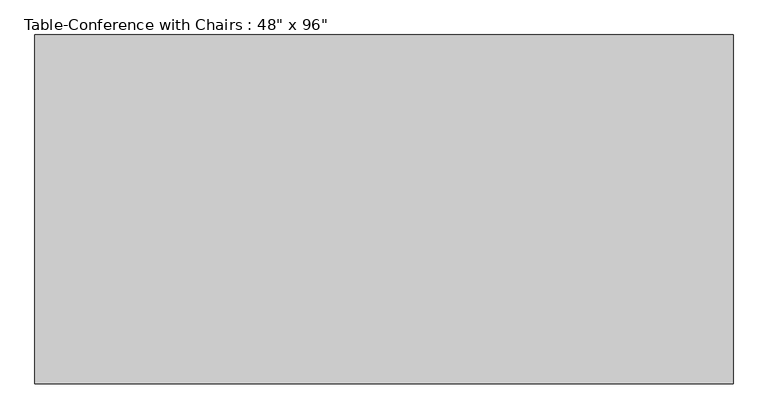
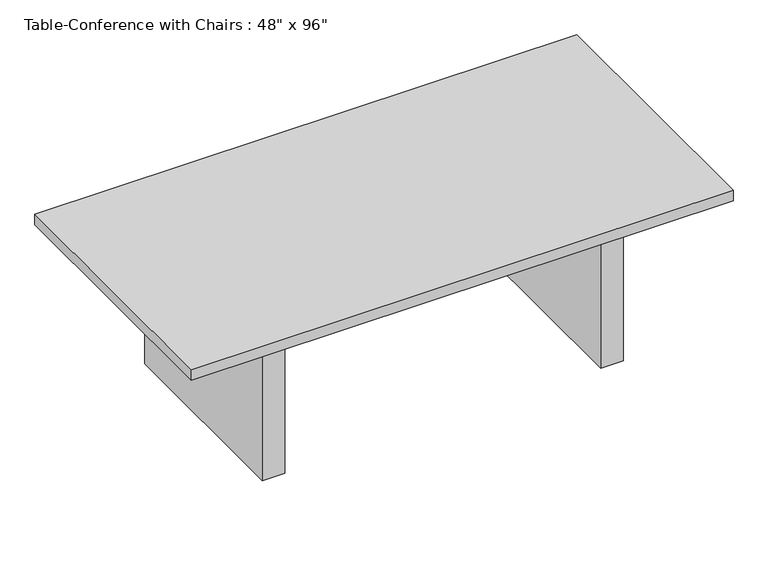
"""IFC4 building model written with IfcOpenShell, lengths in millimetres: furniture geometry."""

from ifc_helpers import new_model, si_unit, frame, origin, origin_with_axes, place, context, project, spatial, polyline, outline, extrude, source, transform, mapped, element, save


def furniture_bf544a6a(model_context):
    return source(origin(), model_context, "Body", "SweptSolid", [
        extrude(outline(polyline([(711.2, 457.2), (711.2, 419.1), (-711.2, 419.1), (-711.2, 457.2), (711.2, 457.2)])), frame((0.0, 0.0, 609.6), z_axis=(0.0, 0.0, 1.0), x_axis=(1.0, 0.0, 0.0)), (0.0, 0.0, 1.0), 101.6),
        extrude(outline(polyline([(711.2, -457.2), (-711.2, -457.2), (-711.2, -419.1), (711.2, -419.1), (711.2, -457.2)])), frame((0.0, 0.0, 609.6), z_axis=(0.0, 0.0, 1.0), x_axis=(1.0, 0.0, 0.0)), (0.0, 0.0, 1.0), 101.6),
        extrude(outline(polyline([(-711.2, -457.2), (-812.8, -457.2), (-812.8, 457.2), (-711.2, 457.2), (-711.2, -457.2)])), origin_with_axes(), (0.0, 0.0, 1.0), 711.2),
        extrude(outline(polyline([(812.8, -457.2), (711.2, -457.2), (711.2, 457.2), (812.8, 457.2), (812.8, -457.2)])), origin_with_axes(), (0.0, 0.0, 1.0), 711.2),
        extrude(outline(polyline([(1219.2, -609.6), (-1219.2, -609.6), (-1219.2, 609.6), (1219.2, 609.6), (1219.2, -609.6)])), frame((0.0, 0.0, 711.2), z_axis=(0.0, 0.0, 1.0), x_axis=(1.0, 0.0, 0.0)), (0.0, 0.0, 1.0), 50.8),
    ])


if __name__ == "__main__":
    model = new_model("IFC4")
    model_context = context("Model", 3, world=origin())
    ifc_project = project(units=[si_unit("LENGTHUNIT", "METRE", prefix="MILLI")], contexts=[model_context])
    site = spatial("IfcSite", under=ifc_project)
    building = spatial("IfcBuilding", under=site)
    placement = place(None, origin())
    furniture_shape = furniture_bf544a6a(model_context)
    element("IfcFurniture", 1, ObjectType="Table-Conference with Chairs : 48\" x 96\"", at=placement, inside=building, context=model_context, shape_type="MappedRepresentation", body=[
        mapped(furniture_shape, transform((0.0, 0.0, 0.0), x_axis=(1.0, 0.0, 0.0), y_axis=(0.0, 1.0, 0.0), z_axis=(0.0, 0.0, 1.0))),
    ])
    save(model, "model.ifc")
